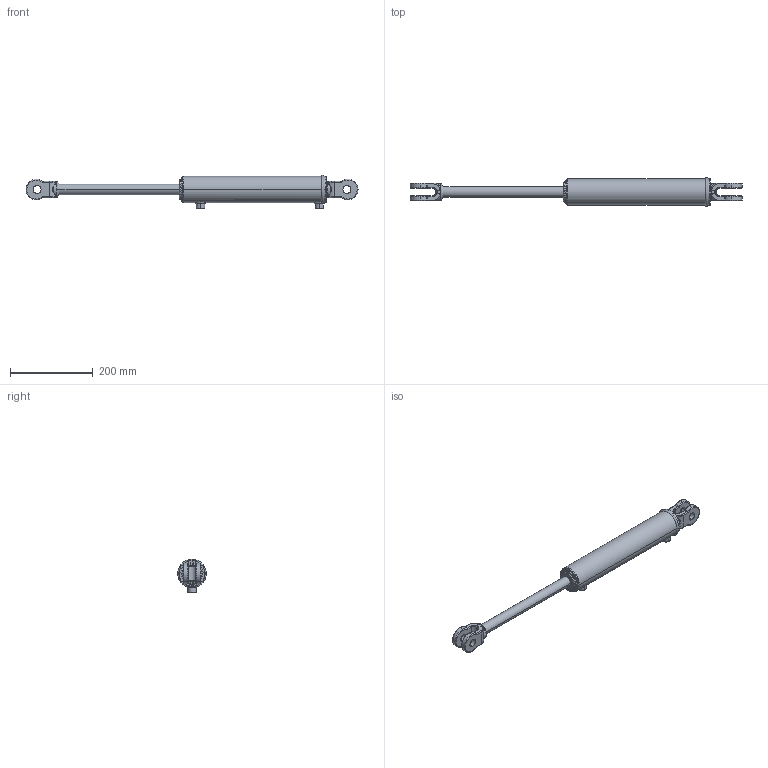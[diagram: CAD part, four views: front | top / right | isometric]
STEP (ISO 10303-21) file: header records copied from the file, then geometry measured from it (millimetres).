
FILE_DESCRIPTION (( 'STEP AP203' ), '1' );
FILE_NAME ('CL-CL200100x254 (10) extended.STEP', '2014-11-20T22:18:10', ( '' ), ( '' ), 'SwSTEP 2.0', 'SolidWorks 2014', '' );
FILE_SCHEMA (( 'CONFIG_CONTROL_DESIGN' ));
Length unit declared in the file: millimetre
Products named in the file (5): 2 inch ext circlip; CL-CL200100x254 (10) BODY; 10 SPARE; CL-CL200100x254 (10) extended; CL-CL150075x254 (10) BODY
Assembly tree (4 placements, depth 3):
  CL-CL200100x254 (10) extended
    CL-CL200100x254 (10) BODY
      CL-CL150075x254 (10) BODY
      2 inch ext circlip
    10 SPARE
Bounding box: 802.41 x 69.5 x 81.5 mm (x, y, z)
Volume: 1363928.5 mm3; surface area: 153781.2 mm2
Topology: 3 solids, 3 shells, 284 faces, 701 edges, 419 vertices
Faces by surface type: bspline 117, cylinder 108, plane 37, torus 14, cone 8
Entity records: 24865 total; most frequent: CARTESIAN_POINT 18431, ORIENTED_EDGE 1370, DIRECTION 1046, EDGE_CURVE 685, AXIS2_PLACEMENT_3D 435, VERTEX_POINT 419, EDGE_LOOP 308, ADVANCED_FACE 284
